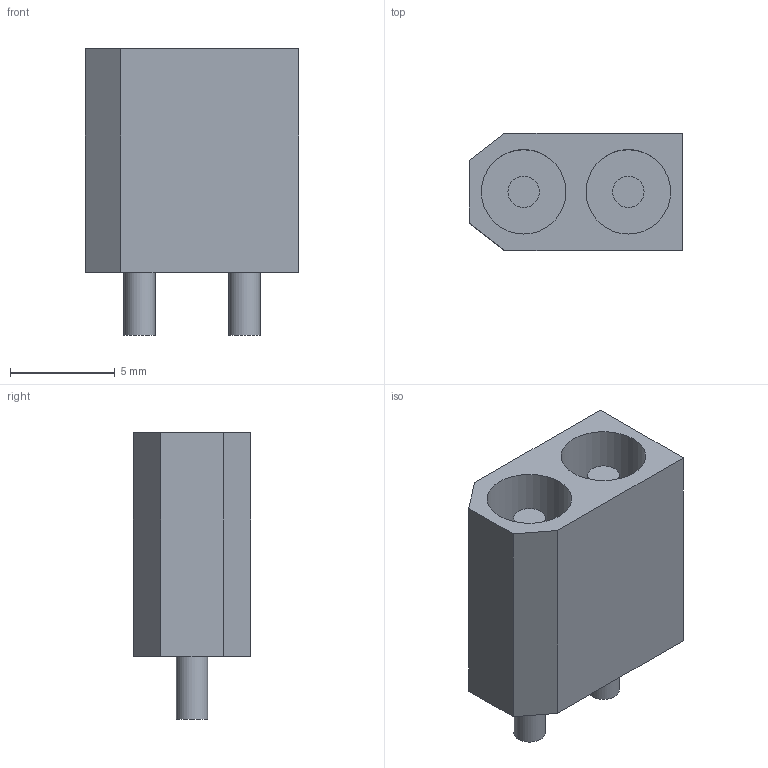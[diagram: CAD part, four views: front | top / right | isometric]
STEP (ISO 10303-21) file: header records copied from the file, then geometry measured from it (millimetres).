
FILE_DESCRIPTION(('Open CASCADE Model'),'2;1');
FILE_NAME('Open CASCADE Shape Model','2026-11-01T15:40:04',('Author'),( 'Open CASCADE'),'Open CASCADE STEP processor 7.9','Open CASCADE 7.9' ,'Unknown');
FILE_SCHEMA(('AUTOMOTIVE_DESIGN { 1 0 10303 214 1 1 1 1 }'));
Length unit declared in the file: millimetre
Products named in the file (4): XT30UPB_M_G_Y_DRAWING_REFERENCE; Housing_2025V1_nominal_envelope; Contact_1_visual; Contact_2_visual
Assembly tree (3 placements, depth 2):
  XT30UPB_M_G_Y_DRAWING_REFERENCE
    Housing_2025V1_nominal_envelope
    Contact_1_visual
    Contact_2_visual
Bounding box: 10.2 x 5.6 x 13.7 mm (x, y, z)
Volume: 493.6 mm3; surface area: 692.4 mm2
Topology: 3 solids, 3 shells, 18 faces, 30 edges, 20 vertices
Faces by surface type: plane 14, cylinder 4
Full cylindrical faces by diameter (mm): 1.5 x2, 4.04 x2
Entity records: 898 total; most frequent: DIRECTION 142, CARTESIAN_POINT 132, LINE 74, VECTOR 74, ORIENTED_EDGE 60, PCURVE 60, DEFINITIONAL_REPRESENTATION 60, AXIS2_PLACEMENT_3D 30
